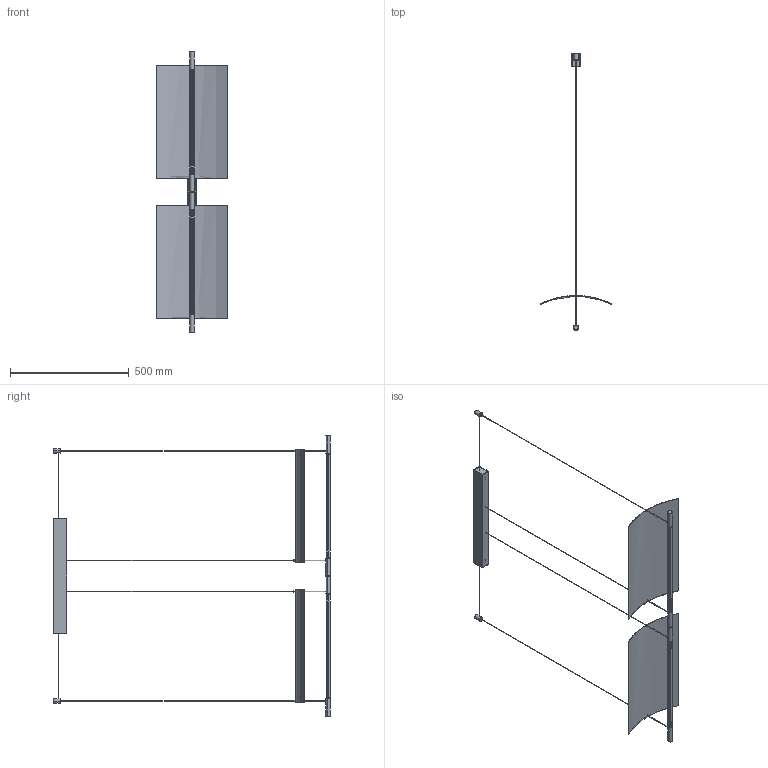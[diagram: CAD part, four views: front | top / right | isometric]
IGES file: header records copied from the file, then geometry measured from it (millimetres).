
Start section: SolidWorks IGES file using analytic representation for surfaces
Global section: file name: C:\SANTACOLE_PDM\Proyectos Catálogo\PROD-P17-012 -- REFLEJADA\6_Técnico comercial\3D\LS45\LS45_WEB.IGS; native system: SolidWorks 2016; preprocessor: SolidWorks 2016; author: aina.morell; date: 190430.180725; units: millimetre
Bounding box: 300.72 x 1163.2 x 1179 mm (x, y, z)
Surface area: 1046824.3 mm2 (no closed solid volume)
Topology: 0 solids, 0 shells, 632 faces, 8016 edges, 8016 vertices
Faces by surface type: bspline 333, revolution 299
